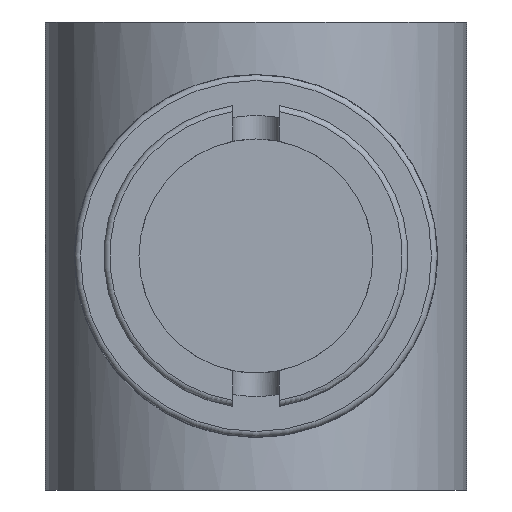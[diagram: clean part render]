
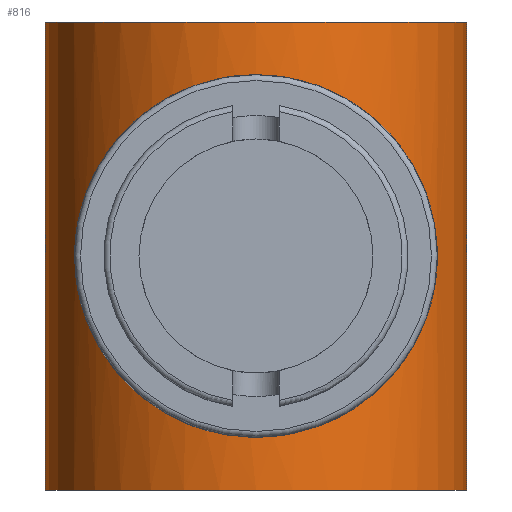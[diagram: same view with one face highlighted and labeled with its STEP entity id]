
A CAD part, left-side view. The second image highlights one B-rep face of the part: STEP entity #816.
In plain terms, the highlighted cylindrical face has radius 3.6 mm (diameter 7.2 mm), a full revolution.
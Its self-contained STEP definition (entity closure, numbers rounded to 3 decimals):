
#58=B_SPLINE_CURVE_WITH_KNOTS('',3,(#1314,#1315,#1316,#1317,#1318,#1319,
#1320,#1321,#1322,#1323,#1324,#1325,#1326,#1327,#1328,#1329,#1330,#1331,
#1332,#1333,#1334,#1335,#1336),.UNSPECIFIED.,.T.,.F.,(1,1,1,1,1,1,1,1,1,
1,1,1,1,1,1,1,1,1,1,1,1,1,1,1,1,1,1),(-0.004,-0.003,
-0.001,0.,0.001,0.003,
0.004,0.005,0.005,0.006,
0.007,0.008,0.009,0.01,
0.012,0.013,0.014,0.015,
0.016,0.016,0.017,0.018,
0.02,0.021,0.022,0.023,
0.025),.UNSPECIFIED.);
#59=B_SPLINE_CURVE_WITH_KNOTS('',3,(#1349,#1350,#1351,#1352,#1353,#1354,
#1355,#1356,#1357,#1358,#1359,#1360,#1361,#1362,#1363,#1364,#1365,#1366,
#1367,#1368,#1369,#1370,#1371),.UNSPECIFIED.,.T.,.F.,(1,1,1,1,1,1,1,1,1,
1,1,1,1,1,1,1,1,1,1,1,1,1,1,1,1,1,1),(-0.004,-0.003,
-0.001,0.,0.001,0.003,
0.004,0.005,0.005,0.006,
0.007,0.008,0.009,0.01,
0.012,0.013,0.014,0.015,
0.016,0.016,0.017,0.018,
0.02,0.021,0.022,0.023,
0.025),.UNSPECIFIED.);
#235=ORIENTED_EDGE('',*,*,#452,.T.);
#236=ORIENTED_EDGE('',*,*,#457,.T.);
#237=ORIENTED_EDGE('',*,*,#458,.T.);
#238=ORIENTED_EDGE('',*,*,#459,.F.);
#452=EDGE_CURVE('',#563,#563,#58,.T.);
#457=EDGE_CURVE('',#567,#567,#59,.T.);
#458=EDGE_CURVE('',#568,#568,#622,.T.);
#459=EDGE_CURVE('',#569,#569,#623,.T.);
#563=VERTEX_POINT('',#1337);
#567=VERTEX_POINT('',#1372);
#568=VERTEX_POINT('',#1374);
#569=VERTEX_POINT('',#1376);
#622=CIRCLE('',#904,3.6);
#623=CIRCLE('',#905,3.6);
#658=EDGE_LOOP('',(#235));
#659=EDGE_LOOP('',(#236));
#660=EDGE_LOOP('',(#237));
#661=EDGE_LOOP('',(#238));
#730=FACE_BOUND('',#658,.T.);
#731=FACE_BOUND('',#659,.T.);
#732=FACE_BOUND('',#660,.T.);
#733=FACE_BOUND('',#661,.T.);
#790=CYLINDRICAL_SURFACE('',#903,3.6);
#816=ADVANCED_FACE('',(#730,#731,#732,#733),#790,.T.);
#903=AXIS2_PLACEMENT_3D('',#1348,#1059,#1060);
#904=AXIS2_PLACEMENT_3D('',#1373,#1061,#1062);
#905=AXIS2_PLACEMENT_3D('',#1375,#1063,#1064);
#1059=DIRECTION('',(0.,0.,-1.));
#1060=DIRECTION('',(-1.,0.,0.));
#1061=DIRECTION('',(0.,0.,-1.));
#1062=DIRECTION('',(1.,0.,0.));
#1063=DIRECTION('',(0.,0.,-1.));
#1064=DIRECTION('',(1.,0.,0.));
#1314=CARTESIAN_POINT('',(3.43,-1.307,2.905));
#1315=CARTESIAN_POINT('',(3.685,0.001,3.197));
#1316=CARTESIAN_POINT('',(3.431,1.305,2.906));
#1317=CARTESIAN_POINT('',(2.85,2.277,2.203));
#1318=CARTESIAN_POINT('',(2.283,2.803,1.42));
#1319=CARTESIAN_POINT('',(1.915,3.052,0.655));
#1320=CARTESIAN_POINT('',(1.788,3.124,0.004));
#1321=CARTESIAN_POINT('',(1.914,3.053,-0.653));
#1322=CARTESIAN_POINT('',(2.28,2.805,-1.415));
#1323=CARTESIAN_POINT('',(2.848,2.28,-2.2));
#1324=CARTESIAN_POINT('',(3.429,1.309,-2.904));
#1325=CARTESIAN_POINT('',(3.685,0.,-3.198));
#1326=CARTESIAN_POINT('',(3.431,-1.305,-2.906));
#1327=CARTESIAN_POINT('',(2.848,-2.281,-2.2));
#1328=CARTESIAN_POINT('',(2.281,-2.805,-1.416));
#1329=CARTESIAN_POINT('',(1.914,-3.052,-0.653));
#1330=CARTESIAN_POINT('',(1.788,-3.124,0.003));
#1331=CARTESIAN_POINT('',(1.915,-3.051,0.657));
#1332=CARTESIAN_POINT('',(2.282,-2.804,1.417));
#1333=CARTESIAN_POINT('',(2.849,-2.279,2.201));
#1334=CARTESIAN_POINT('',(3.43,-1.307,2.905));
#1335=CARTESIAN_POINT('',(3.685,0.001,3.197));
#1336=CARTESIAN_POINT('',(3.431,1.305,2.906));
#1337=CARTESIAN_POINT('',(3.6,0.,3.1));
#1348=CARTESIAN_POINT('',(0.,0.,4.));
#1349=CARTESIAN_POINT('',(-3.43,1.307,2.905));
#1350=CARTESIAN_POINT('',(-3.685,-0.001,3.197));
#1351=CARTESIAN_POINT('',(-3.431,-1.305,2.906));
#1352=CARTESIAN_POINT('',(-2.85,-2.277,2.203));
#1353=CARTESIAN_POINT('',(-2.283,-2.803,1.42));
#1354=CARTESIAN_POINT('',(-1.915,-3.052,0.655));
#1355=CARTESIAN_POINT('',(-1.788,-3.124,0.004));
#1356=CARTESIAN_POINT('',(-1.914,-3.053,-0.653));
#1357=CARTESIAN_POINT('',(-2.28,-2.805,-1.415));
#1358=CARTESIAN_POINT('',(-2.848,-2.28,-2.2));
#1359=CARTESIAN_POINT('',(-3.429,-1.309,-2.904));
#1360=CARTESIAN_POINT('',(-3.685,0.,-3.198));
#1361=CARTESIAN_POINT('',(-3.431,1.305,-2.906));
#1362=CARTESIAN_POINT('',(-2.848,2.281,-2.2));
#1363=CARTESIAN_POINT('',(-2.281,2.805,-1.416));
#1364=CARTESIAN_POINT('',(-1.914,3.052,-0.653));
#1365=CARTESIAN_POINT('',(-1.788,3.124,0.003));
#1366=CARTESIAN_POINT('',(-1.915,3.051,0.657));
#1367=CARTESIAN_POINT('',(-2.282,2.804,1.417));
#1368=CARTESIAN_POINT('',(-2.849,2.279,2.201));
#1369=CARTESIAN_POINT('',(-3.43,1.307,2.905));
#1370=CARTESIAN_POINT('',(-3.685,-0.001,3.197));
#1371=CARTESIAN_POINT('',(-3.431,-1.305,2.906));
#1372=CARTESIAN_POINT('',(-3.6,0.,3.1));
#1373=CARTESIAN_POINT('',(0.,0.,4.));
#1374=CARTESIAN_POINT('',(3.6,0.,4.));
#1375=CARTESIAN_POINT('',(0.,0.,-4.));
#1376=CARTESIAN_POINT('',(3.6,0.,-4.));
